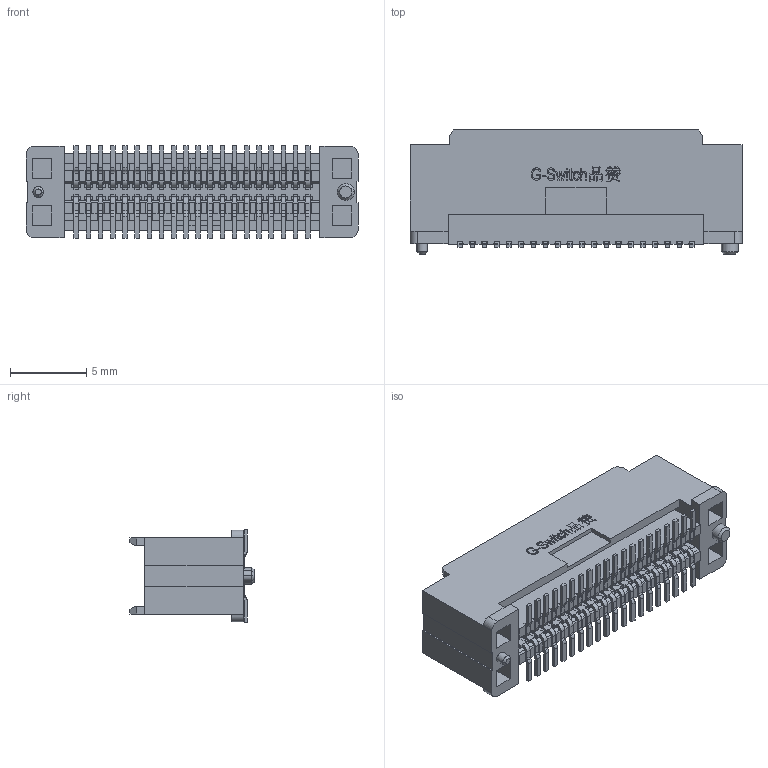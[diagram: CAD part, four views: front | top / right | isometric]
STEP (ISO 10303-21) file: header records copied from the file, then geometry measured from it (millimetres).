
FILE_DESCRIPTION (( 'STEP AP203' ), '1' );
FILE_NAME ('GT-B0805MSV77-40S0101.STEP', '2026-01-20T10:38:41', ( '' ), ( '' ), 'SwSTEP 2.0', 'SolidWorks 2020', '' );
FILE_SCHEMA (( 'CONFIG_CONTROL_DESIGN' ));
Products named in the file (1): GT-B0805MSV77-40S0101
Bounding box: 21.8 x 8.15 x 6.05 mm (x, y, z)
Volume: 405.7 mm3; surface area: 1635 mm2
Topology: 1 solids, 1 shells, 3751 faces, 10710 edges, 6975 vertices
Faces by surface type: plane 2593, cylinder 901, bspline 231, cone 26
Entity records: 128857 total; most frequent: CARTESIAN_POINT 30229, ORIENTED_EDGE 21390, DIRECTION 19736, EDGE_CURVE 10695, VECTOR 8252, LINE 8252, VERTEX_POINT 6975, AXIS2_PLACEMENT_3D 5742
